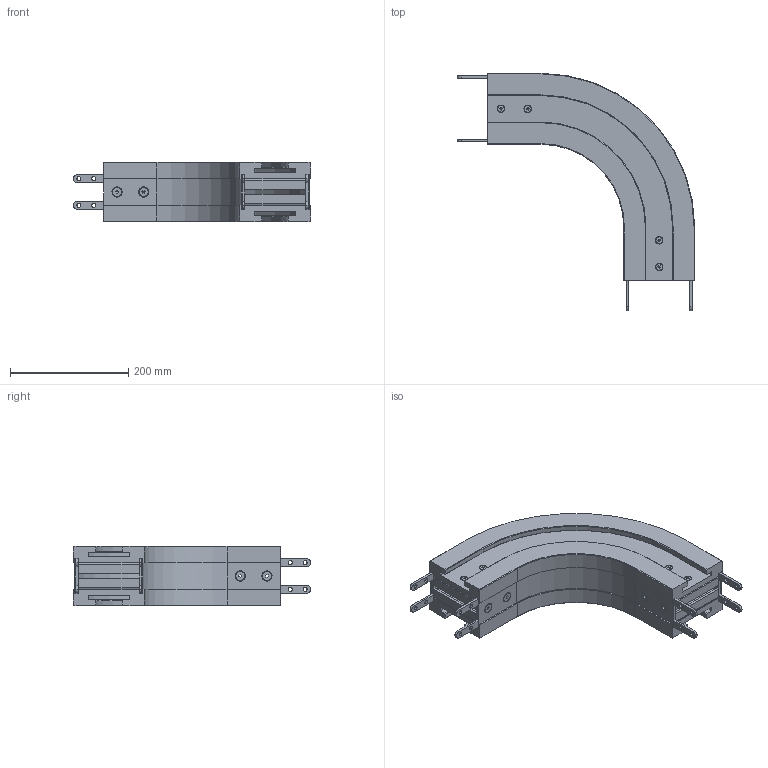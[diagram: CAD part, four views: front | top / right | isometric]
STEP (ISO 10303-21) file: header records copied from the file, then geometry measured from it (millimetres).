
FILE_DESCRIPTION (( 'STEP AP203' ), '1' );
FILE_NAME ('2000.450.490.STEP', '2014-09-03T12:08:31', ( '' ), ( '' ), 'SwSTEP 2.0', 'SolidWorks 2012', '' );
FILE_SCHEMA (( 'CONFIG_CONTROL_DESIGN' ));
Length unit declared in the file: millimetre
Products named in the file (1): 2000.450.490
Bounding box: 401.5 x 401.5 x 101 mm (x, y, z)
Surface area: 499479.1 mm2 (no closed solid volume)
Topology: 0 solids, 34 shells, 383 faces, 1909 edges, 1508 vertices
Faces by surface type: plane 225, cylinder 94, cone 64
Entity records: 19223 total; most frequent: CARTESIAN_POINT 3781, DIRECTION 3344, ORIENTED_EDGE 2661, EDGE_CURVE 1889, VERTEX_POINT 1508, VECTOR 1202, LINE 1202, AXIS2_PLACEMENT_3D 1071
